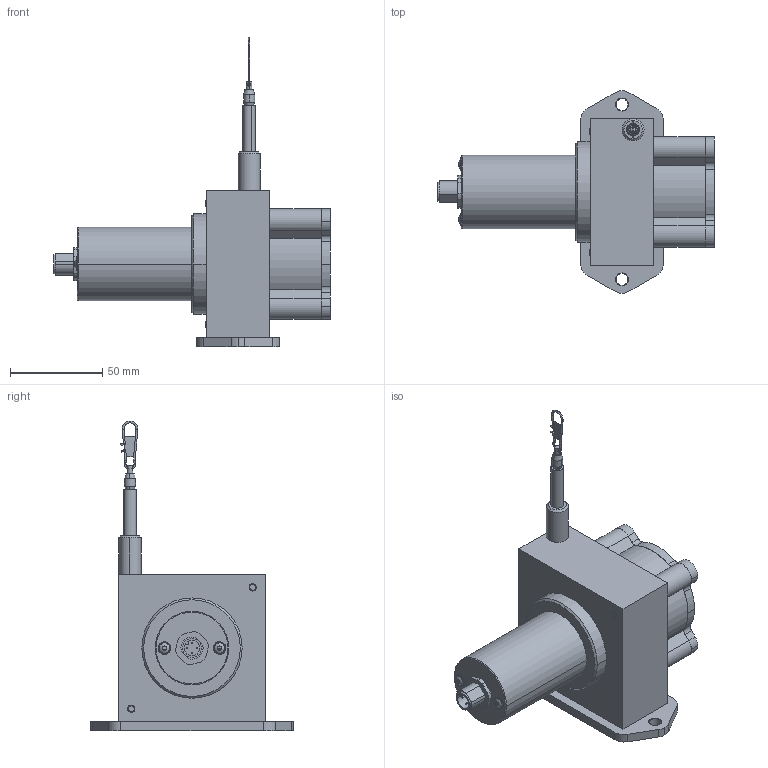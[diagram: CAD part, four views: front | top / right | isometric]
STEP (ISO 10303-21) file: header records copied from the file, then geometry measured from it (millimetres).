
FILE_DESCRIPTION (( 'STEP AP214' ), '1' );
FILE_NAME ('D8.3B1.0100.A113.0000.STEP', '2010-11-24T08:45:26', ( 'admin' ), ( 'Fritz Kübler GmbH' ), 'SwSTEP 2.0', 'SolidWorks 2009', '' );
FILE_SCHEMA (( 'AUTOMOTIVE_DESIGN' ));
Length unit declared in the file: millimetre
Products named in the file (1): D8.3B1.0100.A113.0000
Bounding box: 150.5 x 110 x 168.32 mm (x, y, z)
Surface area: 59799.4 mm2 (no closed solid volume)
Topology: 0 solids, 28 shells, 362 faces, 1069 edges, 720 vertices
Faces by surface type: plane 176, cylinder 112, cone 38, torus 27, bspline 6, sphere 3
Entity records: 19805 total; most frequent: CARTESIAN_POINT 6410, ORIENTED_EDGE 1912, DIRECTION 1897, EDGE_CURVE 1057, VERTEX_POINT 718, AXIS2_PLACEMENT_3D 689, VECTOR 519, LINE 519
